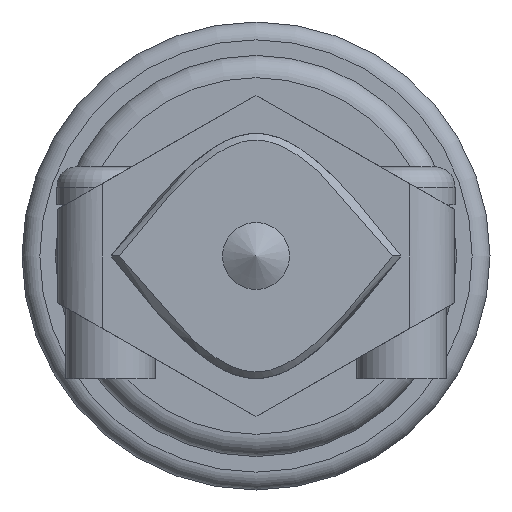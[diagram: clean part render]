
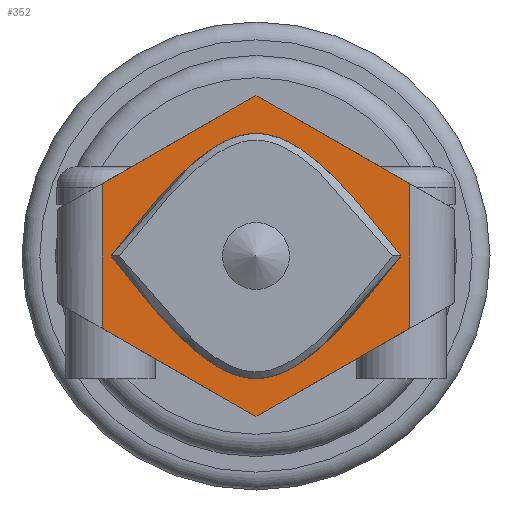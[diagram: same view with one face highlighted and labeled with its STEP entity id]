
A CAD part, left-side view. The second image highlights one B-rep face of the part: STEP entity #352.
In plain terms, the highlighted planar face has unit normal (-1, 0, 0).
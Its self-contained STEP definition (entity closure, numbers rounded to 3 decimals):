
#2 = CARTESIAN_POINT ( 'NONE',  ( 25.913, -2.858, 20.744 ) ) ;
#39 = FACE_BOUND ( 'NONE', #1653, .T. ) ;
#51 = CARTESIAN_POINT ( 'NONE',  ( 25.913, -11.758, 30.044 ) ) ;
#60 = EDGE_CURVE ( 'NONE', #2317, #1442, #73, .T. ) ;
#68 = CARTESIAN_POINT ( 'NONE',  ( 25.913, 3.642, 27.944 ) ) ;
#73 = B_SPLINE_CURVE_WITH_KNOTS ( 'NONE', 3,
 ( #1247, #1595, #1987, #1078, #1257 ),
 .UNSPECIFIED., .F., .F.,
 ( 4, 1, 4 ),
 ( 0., 0.5, 1. ),
 .UNSPECIFIED. ) ;
#243 = FACE_OUTER_BOUND ( 'NONE', #2379, .T. ) ;
#260 = EDGE_CURVE ( 'NONE', #2235, #2023, #638, .T. ) ;
#309 = EDGE_CURVE ( 'NONE', #1442, #2317, #2151, .T. ) ;
#338 = EDGE_CURVE ( 'NONE', #707, #1776, #1343, .T. ) ;
#352 = ADVANCED_FACE ( 'NONE', ( #243, #39 ), #598, .F. ) ;
#424 = CARTESIAN_POINT ( 'NONE',  ( 25.913, 4.042, 30.044 ) ) ;
#436 = DIRECTION ( 'NONE',  ( 0., -0.868, 0.497 ) ) ;
#457 = CARTESIAN_POINT ( 'NONE',  ( 25.913, -9.758, 24.698 ) ) ;
#598 = PLANE ( 'NONE',  #1560 ) ;
#619 = EDGE_CURVE ( 'NONE', #1458, #939, #659, .T. ) ;
#638 = LINE ( 'NONE', #1370, #1636 ) ;
#659 = LINE ( 'NONE', #51, #1713 ) ;
#699 = LINE ( 'NONE', #1430, #971 ) ;
#707 = VERTEX_POINT ( 'NONE', #2244 ) ;
#856 = LINE ( 'NONE', #1407, #1186 ) ;
#880 = CARTESIAN_POINT ( 'NONE',  ( 25.913, -2.858, 35.144 ) ) ;
#915 = ORIENTED_EDGE ( 'NONE', *, *, #1834, .T. ) ;
#939 = VERTEX_POINT ( 'NONE', #880 ) ;
#956 = CARTESIAN_POINT ( 'NONE',  ( 25.913, -9.358, 27.944 ) ) ;
#971 = VECTOR ( 'NONE', #2171, 1000. ) ;
#1070 = ORIENTED_EDGE ( 'NONE', *, *, #309, .F. ) ;
#1078 = CARTESIAN_POINT ( 'NONE',  ( 25.913, 1.476, 30.694 ) ) ;
#1110 = ORIENTED_EDGE ( 'NONE', *, *, #338, .T. ) ;
#1154 = DIRECTION ( 'NONE',  ( 1., 0., 0. ) ) ;
#1173 = DIRECTION ( 'NONE',  ( 0., -0.868, -0.497 ) ) ;
#1186 = VECTOR ( 'NONE', #1173, 1000. ) ;
#1192 = DIRECTION ( 'NONE',  ( 0., 0., 1. ) ) ;
#1225 = ORIENTED_EDGE ( 'NONE', *, *, #1580, .T. ) ;
#1247 = CARTESIAN_POINT ( 'NONE',  ( 25.913, -9.358, 27.944 ) ) ;
#1257 = CARTESIAN_POINT ( 'NONE',  ( 25.913, 3.642, 27.944 ) ) ;
#1343 = LINE ( 'NONE', #424, #1943 ) ;
#1370 = CARTESIAN_POINT ( 'NONE',  ( 25.913, -11.758, 25.844 ) ) ;
#1380 = CARTESIAN_POINT ( 'NONE',  ( 25.913, -9.358, 27.944 ) ) ;
#1407 = CARTESIAN_POINT ( 'NONE',  ( 25.913, 6.042, 25.844 ) ) ;
#1430 = CARTESIAN_POINT ( 'NONE',  ( 25.913, -9.758, 30.044 ) ) ;
#1442 = VERTEX_POINT ( 'NONE', #68 ) ;
#1458 = VERTEX_POINT ( 'NONE', #1563 ) ;
#1560 = AXIS2_PLACEMENT_3D ( 'NONE', #2105, #1154, #1192 ) ;
#1563 = CARTESIAN_POINT ( 'NONE',  ( 25.913, -9.758, 31.19 ) ) ;
#1580 = EDGE_CURVE ( 'NONE', #2023, #1458, #699, .T. ) ;
#1595 = CARTESIAN_POINT ( 'NONE',  ( 25.913, -7.191, 30.694 ) ) ;
#1636 = VECTOR ( 'NONE', #436, 1000. ) ;
#1653 = EDGE_LOOP ( 'NONE', ( #1070, #1941 ) ) ;
#1661 = ORIENTED_EDGE ( 'NONE', *, *, #1733, .T. ) ;
#1708 = CARTESIAN_POINT ( 'NONE',  ( 25.913, -2.858, 19.694 ) ) ;
#1713 = VECTOR ( 'NONE', #1878, 1000. ) ;
#1733 = EDGE_CURVE ( 'NONE', #1776, #2235, #856, .T. ) ;
#1776 = VERTEX_POINT ( 'NONE', #2361 ) ;
#1834 = EDGE_CURVE ( 'NONE', #939, #707, #2228, .T. ) ;
#1871 = VECTOR ( 'NONE', #1890, 1000. ) ;
#1877 = CARTESIAN_POINT ( 'NONE',  ( 25.913, 6.042, 30.044 ) ) ;
#1878 = DIRECTION ( 'NONE',  ( 0., 0.868, 0.497 ) ) ;
#1890 = DIRECTION ( 'NONE',  ( 0., 0.868, -0.497 ) ) ;
#1913 = DIRECTION ( 'NONE',  ( 0., 0., -1. ) ) ;
#1941 = ORIENTED_EDGE ( 'NONE', *, *, #60, .F. ) ;
#1943 = VECTOR ( 'NONE', #1913, 1000. ) ;
#1987 = CARTESIAN_POINT ( 'NONE',  ( 25.913, -2.858, 36.194 ) ) ;
#2023 = VERTEX_POINT ( 'NONE', #457 ) ;
#2105 = CARTESIAN_POINT ( 'NONE',  ( 25.913, 6.042, 30.044 ) ) ;
#2151 = B_SPLINE_CURVE_WITH_KNOTS ( 'NONE', 3,
 ( #2299, #2254, #1708, #2287, #1380 ),
 .UNSPECIFIED., .F., .F.,
 ( 4, 1, 4 ),
 ( 0., 0.5, 1. ),
 .UNSPECIFIED. ) ;
#2171 = DIRECTION ( 'NONE',  ( 0., 0., 1. ) ) ;
#2228 = LINE ( 'NONE', #1877, #1871 ) ;
#2235 = VERTEX_POINT ( 'NONE', #2 ) ;
#2244 = CARTESIAN_POINT ( 'NONE',  ( 25.913, 4.042, 31.19 ) ) ;
#2254 = CARTESIAN_POINT ( 'NONE',  ( 25.913, 1.476, 25.194 ) ) ;
#2258 = ORIENTED_EDGE ( 'NONE', *, *, #260, .T. ) ;
#2287 = CARTESIAN_POINT ( 'NONE',  ( 25.913, -7.191, 25.194 ) ) ;
#2299 = CARTESIAN_POINT ( 'NONE',  ( 25.913, 3.642, 27.944 ) ) ;
#2317 = VERTEX_POINT ( 'NONE', #956 ) ;
#2361 = CARTESIAN_POINT ( 'NONE',  ( 25.913, 4.042, 24.698 ) ) ;
#2379 = EDGE_LOOP ( 'NONE', ( #2258, #1225, #2397, #915, #1110, #1661 ) ) ;
#2397 = ORIENTED_EDGE ( 'NONE', *, *, #619, .T. ) ;
